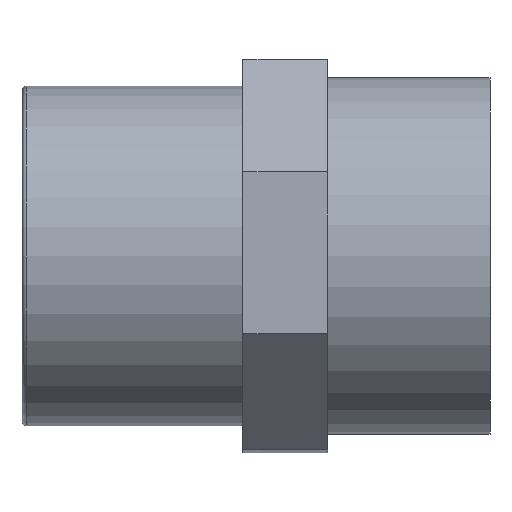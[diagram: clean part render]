
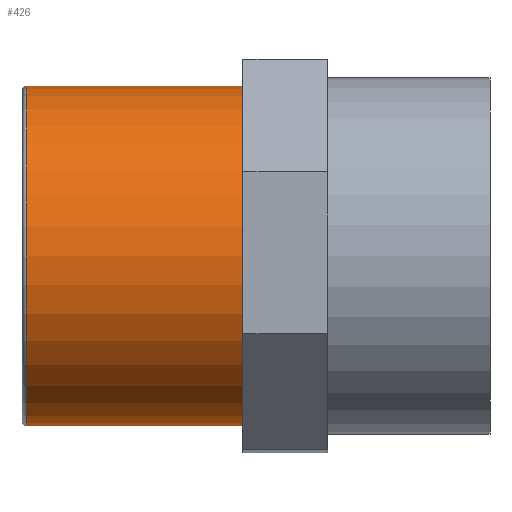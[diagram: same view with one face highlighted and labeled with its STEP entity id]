
A CAD part, front view. The second image highlights one B-rep face of the part: STEP entity #426.
In plain terms, the highlighted cylindrical face has radius 20 mm (diameter 40 mm), a full revolution.
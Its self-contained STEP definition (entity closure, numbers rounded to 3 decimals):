
#42=CYLINDRICAL_SURFACE('',#460,20.);
#50=FACE_BOUND('',#116,.T.);
#61=CIRCLE('',#456,20.);
#64=CIRCLE('',#461,20.);
#85=FACE_OUTER_BOUND('',#115,.T.);
#115=EDGE_LOOP('',(#325));
#116=EDGE_LOOP('',(#326));
#208=VERTEX_POINT('',#628);
#211=VERTEX_POINT('',#636);
#257=EDGE_CURVE('',#208,#208,#61,.T.);
#260=EDGE_CURVE('',#211,#211,#64,.T.);
#325=ORIENTED_EDGE('',*,*,#260,.T.);
#326=ORIENTED_EDGE('',*,*,#257,.F.);
#426=ADVANCED_FACE('',(#85,#50),#42,.T.);
#456=AXIS2_PLACEMENT_3D('',#629,#526,#527);
#460=AXIS2_PLACEMENT_3D('',#635,#534,#535);
#461=AXIS2_PLACEMENT_3D('',#637,#536,#537);
#526=DIRECTION('center_axis',(-1.,0.,0.));
#527=DIRECTION('ref_axis',(0.,1.,0.));
#534=DIRECTION('center_axis',(-1.,0.,0.));
#535=DIRECTION('ref_axis',(0.,-1.,0.));
#536=DIRECTION('center_axis',(-1.,0.,0.));
#537=DIRECTION('ref_axis',(0.,0.,1.));
#628=CARTESIAN_POINT('',(2.101,-8.,0.));
#629=CARTESIAN_POINT('Origin',(2.101,12.,0.));
#635=CARTESIAN_POINT('Origin',(14.601,12.,0.));
#636=CARTESIAN_POINT('',(27.601,-8.,0.));
#637=CARTESIAN_POINT('Origin',(27.601,12.,0.));
